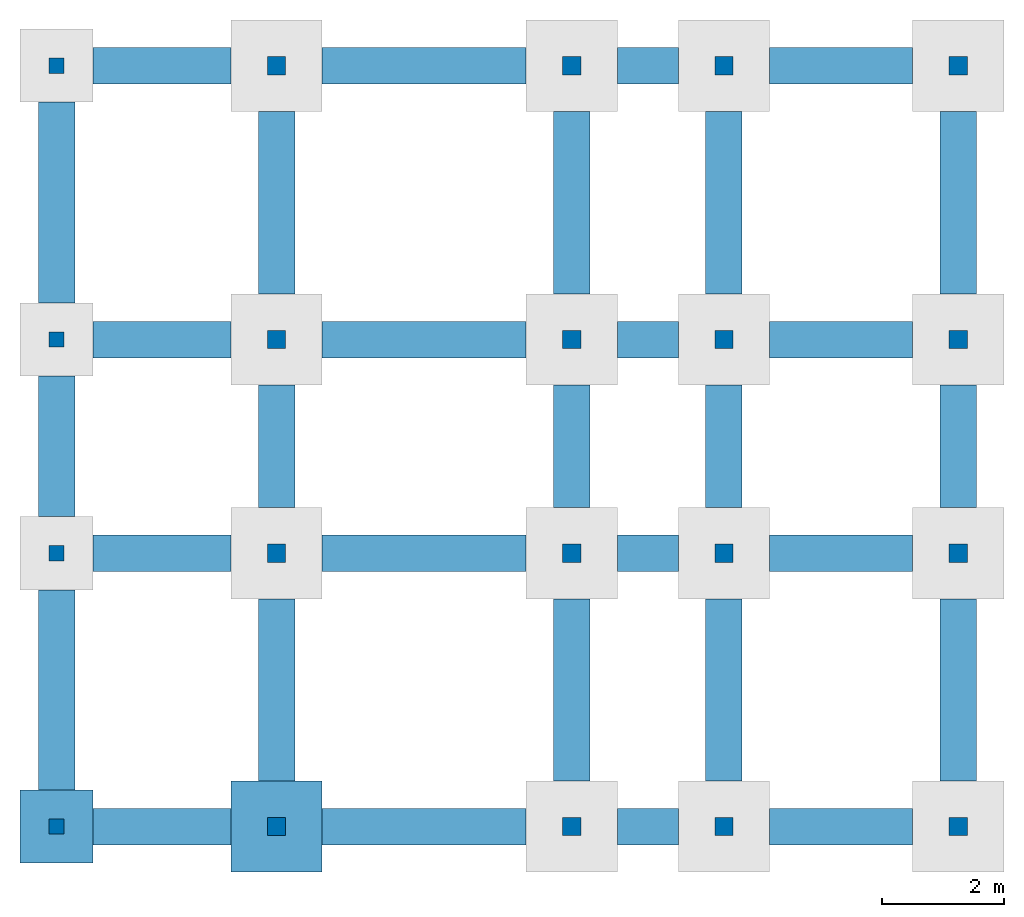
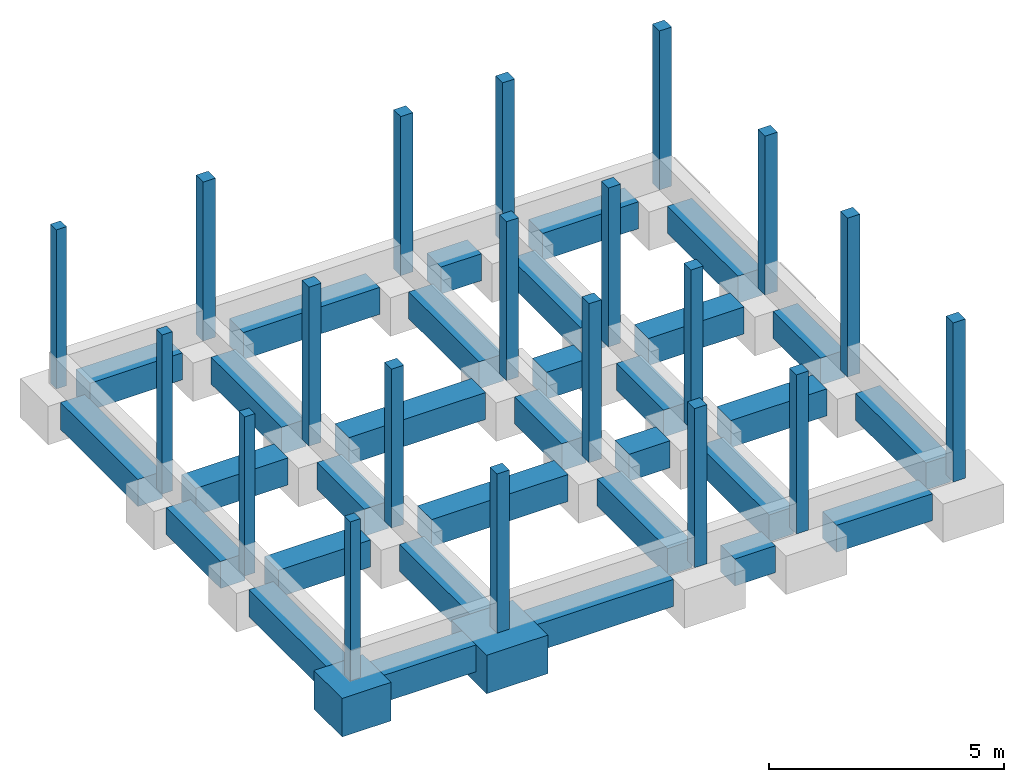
# One storey, part 1 of 2: 31 beams, 20 columns, 2 slabs.
"""IFC2X3 building model written with IfcOpenShell, lengths in metres."""

from ifc_helpers import new_model, entity, si_unit, converted_unit, derived_unit, direction, frame, frame_2d, origin, origin_2d_with_axis, place, context, subcontext, project, spatial, rectangle, extrude, source, transform, mapped, material, type_object, type_shapes, element, save


model = new_model("IFC2X3")

# Units and contexts
model_context = context("Model", 3, precision=1e-05, world=origin(), true_north=direction((6.12303176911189e-17, 1.0)))
context_of_model = context(None, 3, precision=1e-05, world=origin(), true_north=direction((6.12303176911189e-17, 1.0)))
body_context = subcontext(model_context, "Body", "Model", "MODEL_VIEW")
ifc_project = project(units=[si_unit("LENGTHUNIT", "METRE"), si_unit("AREAUNIT", "SQUARE_METRE"), si_unit("VOLUMEUNIT", "CUBIC_METRE"), converted_unit("PLANEANGLEUNIT", "DEGREE", entity("IfcRatioMeasure", 0.0174532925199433), si_unit("PLANEANGLEUNIT", "RADIAN"), dimensions=[0, 0, 0, 0, 0, 0, 0]), si_unit("MASSUNIT", "GRAM", prefix="KILO"), si_unit("TIMEUNIT", "SECOND"), si_unit("FREQUENCYUNIT", "HERTZ"), si_unit("THERMODYNAMICTEMPERATUREUNIT", "DEGREE_CELSIUS"), derived_unit("THERMALTRANSMITTANCEUNIT", [(si_unit("MASSUNIT", "GRAM", prefix="KILO"), 1), (si_unit("THERMODYNAMICTEMPERATUREUNIT", "KELVIN"), -1), (si_unit("TIMEUNIT", "SECOND"), -3)]), derived_unit("VOLUMETRICFLOWRATEUNIT", [(si_unit("LENGTHUNIT", "METRE"), 3), (si_unit("TIMEUNIT", "SECOND"), -1)]), si_unit("ELECTRICCURRENTUNIT", "AMPERE"), si_unit("ELECTRICVOLTAGEUNIT", "VOLT"), si_unit("POWERUNIT", "WATT"), si_unit("FORCEUNIT", "NEWTON", prefix="KILO"), si_unit("ILLUMINANCEUNIT", "LUX"), si_unit("LUMINOUSFLUXUNIT", "LUMEN"), si_unit("LUMINOUSINTENSITYUNIT", "CANDELA"), si_unit("PRESSUREUNIT", "PASCAL")], contexts=[model_context, context_of_model])

# Site, building, storey
site_placement = place(None, origin())
site = spatial("IfcSite", under=ifc_project, at=site_placement, Name="Default", CompositionType="ELEMENT")
building_placement = place(site_placement, origin())
building = spatial("IfcBuilding", under=site, at=building_placement, CompositionType="ELEMENT")
storey_placement = place(building_placement, frame((0.0, 0.0, -0.68)))
storey = spatial("IfcBuildingStorey", under=building, at=storey_placement, Name="00.ES.CIMENTACIÓN", CompositionType="ELEMENT", Elevation=-0.68)

# Columns
column_type_1 = type_object("IfcColumnType", Name="250 x 250 mm", PredefinedType="COLUMN")
shared_shape_1 = source(origin(), body_context, "Body", "SweptSolid", [
    extrude(rectangle(XDim=0.25, YDim=0.250000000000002, at=frame_2d((-6.93889390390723e-17, 0.0), x_axis=(1.0, 0.0))), frame((0.600000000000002, 13.1, -0.68), z_axis=(0.0, 0.0, 1.0), x_axis=(-1.0, 0.0, 0.0)), (0.0, 0.0, 1.0), 4.13),
])
type_shapes(column_type_1, [shared_shape_1])
column_1_placement = place(storey_placement, frame((0.0, 0.0, 0.68)))
element("IfcColumn", 1, at=column_1_placement, inside=storey, type_object=column_type_1, Name="Pilar rectangular hormigón:250 x 250 mm", ObjectType="250 x 250 mm", context=body_context, shape_type="MappedRepresentation", body=[
    mapped(shared_shape_1, transform((0.0, 0.0, 0.0), scale=1.0)),
])
column_type_2 = type_object("IfcColumnType", Name="250 x 250 mm", PredefinedType="COLUMN")
shared_shape_2 = source(origin(), body_context, "Body", "SweptSolid", [
    extrude(rectangle(XDim=0.25, YDim=0.249999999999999, at=origin_2d_with_axis()), frame((0.600000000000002, 8.60000000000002, -0.68), z_axis=(0.0, 0.0, 1.0), x_axis=(-1.0, 0.0, 0.0)), (0.0, 0.0, 1.0), 4.13),
])
type_shapes(column_type_2, [shared_shape_2])
column_2_placement = place(storey_placement, frame((0.0, 0.0, 0.68)))
element("IfcColumn", 2, at=column_2_placement, inside=storey, type_object=column_type_2, Name="Pilar rectangular hormigón:250 x 250 mm", ObjectType="250 x 250 mm", context=body_context, shape_type="MappedRepresentation", body=[
    mapped(shared_shape_2, transform((0.0, 0.0, 0.0), scale=1.0)),
])
column_type_3 = type_object("IfcColumnType", Name="250 x 250 mm", PredefinedType="COLUMN")
shared_shape_3 = source(origin(), body_context, "Body", "SweptSolid", [
    extrude(rectangle(XDim=0.25, YDim=0.249999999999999, at=origin_2d_with_axis()), frame((0.600000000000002, 5.09006108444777, -0.68), z_axis=(0.0, 0.0, 1.0), x_axis=(-1.0, 0.0, 0.0)), (0.0, 0.0, 1.0), 4.13),
])
type_shapes(column_type_3, [shared_shape_3])
column_3_placement = place(storey_placement, frame((0.0, 0.0, 0.68)))
element("IfcColumn", 3, at=column_3_placement, inside=storey, type_object=column_type_3, Name="Pilar rectangular hormigón:250 x 250 mm", ObjectType="250 x 250 mm", context=body_context, shape_type="MappedRepresentation", body=[
    mapped(shared_shape_3, transform((0.0, 0.0, 0.0), scale=1.0)),
])
column_type_4 = type_object("IfcColumnType", Name="250 x 250 mm", PredefinedType="COLUMN")
shared_shape_4 = source(origin(), body_context, "Body", "SweptSolid", [
    extrude(rectangle(XDim=0.25, YDim=0.25, at=frame_2d((0.0, 6.24500451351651e-17), x_axis=(1.0, 0.0))), frame((0.600000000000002, 0.600000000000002, -0.68), z_axis=(0.0, 0.0, 1.0), x_axis=(-1.0, 0.0, 0.0)), (0.0, 0.0, 1.0), 4.13),
])
type_shapes(column_type_4, [shared_shape_4])
column_4_placement = place(storey_placement, frame((0.0, 0.0, 0.68)))
element("IfcColumn", 4, at=column_4_placement, inside=storey, type_object=column_type_4, Name="Pilar rectangular hormigón:250 x 250 mm", ObjectType="250 x 250 mm", context=body_context, shape_type="MappedRepresentation", body=[
    mapped(shared_shape_4, transform((0.0, 0.0, 0.0), scale=1.0)),
])
column_type_5 = type_object("IfcColumnType", Name="300 x 300 mm", PredefinedType="COLUMN")
shared_shape_5 = source(origin(), body_context, "Body", "SweptSolid", [
    extrude(rectangle(XDim=0.3, YDim=0.300000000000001, at=frame_2d((0.0, -1.08246744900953e-15), x_axis=(1.0, 0.0))), frame((4.21500000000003, 13.1, -0.68), z_axis=(0.0, 0.0, 1.0), x_axis=(-1.0, 0.0, 0.0)), (0.0, 0.0, 1.0), 4.13),
])
type_shapes(column_type_5, [shared_shape_5])
column_5_placement = place(storey_placement, frame((0.0, 0.0, 0.68)))
element("IfcColumn", 5, at=column_5_placement, inside=storey, type_object=column_type_5, Name="Pilar rectangular hormigón:300 x 300 mm", ObjectType="300 x 300 mm", context=body_context, shape_type="MappedRepresentation", body=[
    mapped(shared_shape_5, transform((0.0, 0.0, 0.0), scale=1.0)),
])
column_type_6 = type_object("IfcColumnType", Name="300 x 300 mm", PredefinedType="COLUMN")
shared_shape_6 = source(origin(), body_context, "Body", "SweptSolid", [
    extrude(rectangle(XDim=0.3, YDim=0.300000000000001, at=frame_2d((1.08246744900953e-15, -1.08246744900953e-15), x_axis=(1.0, 0.0))), frame((9.065, 13.1, -0.68), z_axis=(0.0, 0.0, 1.0), x_axis=(-1.0, 0.0, 0.0)), (0.0, 0.0, 1.0), 4.13),
])
type_shapes(column_type_6, [shared_shape_6])
column_6_placement = place(storey_placement, frame((0.0, 0.0, 0.68)))
element("IfcColumn", 6, at=column_6_placement, inside=storey, type_object=column_type_6, Name="Pilar rectangular hormigón:300 x 300 mm", ObjectType="300 x 300 mm", context=body_context, shape_type="MappedRepresentation", body=[
    mapped(shared_shape_6, transform((0.0, 0.0, 0.0), scale=1.0)),
])
column_type_7 = type_object("IfcColumnType", Name="300 x 300 mm", PredefinedType="COLUMN")
shared_shape_7 = source(origin(), body_context, "Body", "SweptSolid", [
    extrude(rectangle(XDim=0.299999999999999, YDim=0.300000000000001, at=frame_2d((1.08246744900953e-15, -1.08246744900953e-15), x_axis=(1.0, 0.0))), frame((11.565, 13.1, -0.68), z_axis=(0.0, 0.0, 1.0), x_axis=(-1.0, 0.0, 0.0)), (0.0, 0.0, 1.0), 4.13),
])
type_shapes(column_type_7, [shared_shape_7])
column_7_placement = place(storey_placement, frame((0.0, 0.0, 0.68)))
element("IfcColumn", 7, at=column_7_placement, inside=storey, type_object=column_type_7, Name="Pilar rectangular hormigón:300 x 300 mm", ObjectType="300 x 300 mm", context=body_context, shape_type="MappedRepresentation", body=[
    mapped(shared_shape_7, transform((0.0, 0.0, 0.0), scale=1.0)),
])
column_type_8 = type_object("IfcColumnType", Name="300 x 300 mm", PredefinedType="COLUMN")
shared_shape_8 = source(origin(), body_context, "Body", "SweptSolid", [
    extrude(rectangle(XDim=0.299999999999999, YDim=0.300000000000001, at=frame_2d((1.08246744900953e-15, 1.08246744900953e-15), x_axis=(1.0, 0.0))), frame((15.415, 13.1, -0.68), z_axis=(0.0, 0.0, 1.0), x_axis=(-1.0, 0.0, 0.0)), (0.0, 0.0, 1.0), 4.13),
])
type_shapes(column_type_8, [shared_shape_8])
column_8_placement = place(storey_placement, frame((0.0, 0.0, 0.68)))
element("IfcColumn", 8, at=column_8_placement, inside=storey, type_object=column_type_8, Name="Pilar rectangular hormigón:300 x 300 mm", ObjectType="300 x 300 mm", context=body_context, shape_type="MappedRepresentation", body=[
    mapped(shared_shape_8, transform((0.0, 0.0, 0.0), scale=1.0)),
])
column_type_9 = type_object("IfcColumnType", Name="300 x 300 mm", PredefinedType="COLUMN")
shared_shape_9 = source(origin(), body_context, "Body", "SweptSolid", [
    extrude(rectangle(XDim=0.3, YDim=0.3, at=frame_2d((0.0, 5.41233724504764e-16), x_axis=(1.0, 0.0))), frame((4.21500000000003, 8.60000000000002, -0.68), z_axis=(0.0, 0.0, 1.0), x_axis=(-1.0, 0.0, 0.0)), (0.0, 0.0, 1.0), 4.13),
])
type_shapes(column_type_9, [shared_shape_9])
column_9_placement = place(storey_placement, frame((0.0, 0.0, 0.68)))
element("IfcColumn", 9, at=column_9_placement, inside=storey, type_object=column_type_9, Name="Pilar rectangular hormigón:300 x 300 mm", ObjectType="300 x 300 mm", context=body_context, shape_type="MappedRepresentation", body=[
    mapped(shared_shape_9, transform((0.0, 0.0, 0.0), scale=1.0)),
])
column_type_10 = type_object("IfcColumnType", Name="300 x 300 mm", PredefinedType="COLUMN")
shared_shape_10 = source(origin(), body_context, "Body", "SweptSolid", [
    extrude(rectangle(XDim=0.3, YDim=0.3, at=frame_2d((5.41233724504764e-16, 5.41233724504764e-16), x_axis=(1.0, 0.0))), frame((9.065, 8.60000000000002, -0.68), z_axis=(0.0, 0.0, 1.0), x_axis=(-1.0, 0.0, 0.0)), (0.0, 0.0, 1.0), 4.13),
])
type_shapes(column_type_10, [shared_shape_10])
column_10_placement = place(storey_placement, frame((0.0, 0.0, 0.68)))
element("IfcColumn", 10, at=column_10_placement, inside=storey, type_object=column_type_10, Name="Pilar rectangular hormigón:300 x 300 mm", ObjectType="300 x 300 mm", context=body_context, shape_type="MappedRepresentation", body=[
    mapped(shared_shape_10, transform((0.0, 0.0, 0.0), scale=1.0)),
])
column_type_11 = type_object("IfcColumnType", Name="300 x 300 mm", PredefinedType="COLUMN")
shared_shape_11 = source(origin(), body_context, "Body", "SweptSolid", [
    extrude(rectangle(XDim=0.299999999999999, YDim=0.3, at=frame_2d((1.08246744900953e-15, 5.41233724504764e-16), x_axis=(1.0, 0.0))), frame((11.565, 8.60000000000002, -0.68), z_axis=(0.0, 0.0, 1.0), x_axis=(-1.0, 0.0, 0.0)), (0.0, 0.0, 1.0), 4.13),
])
type_shapes(column_type_11, [shared_shape_11])
column_11_placement = place(storey_placement, frame((0.0, 0.0, 0.68)))
element("IfcColumn", 11, at=column_11_placement, inside=storey, type_object=column_type_11, Name="Pilar rectangular hormigón:300 x 300 mm", ObjectType="300 x 300 mm", context=body_context, shape_type="MappedRepresentation", body=[
    mapped(shared_shape_11, transform((0.0, 0.0, 0.0), scale=1.0)),
])
column_type_12 = type_object("IfcColumnType", Name="300 x 300 mm", PredefinedType="COLUMN")
shared_shape_12 = source(origin(), body_context, "Body", "SweptSolid", [
    extrude(rectangle(XDim=0.299999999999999, YDim=0.3, at=frame_2d((1.08246744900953e-15, 5.41233724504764e-16), x_axis=(1.0, 0.0))), frame((15.415, 8.60000000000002, -0.68), z_axis=(0.0, 0.0, 1.0), x_axis=(-1.0, 0.0, 0.0)), (0.0, 0.0, 1.0), 4.13),
])
type_shapes(column_type_12, [shared_shape_12])
column_12_placement = place(storey_placement, frame((0.0, 0.0, 0.68)))
element("IfcColumn", 12, at=column_12_placement, inside=storey, type_object=column_type_12, Name="Pilar rectangular hormigón:300 x 300 mm", ObjectType="300 x 300 mm", context=body_context, shape_type="MappedRepresentation", body=[
    mapped(shared_shape_12, transform((0.0, 0.0, 0.0), scale=1.0)),
])
column_type_13 = type_object("IfcColumnType", Name="300 x 300 mm", PredefinedType="COLUMN")
shared_shape_13 = source(origin(), body_context, "Body", "SweptSolid", [
    extrude(rectangle(XDim=0.3, YDim=0.3, at=frame_2d((0.0, 5.41233724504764e-16), x_axis=(1.0, 0.0))), frame((4.21500000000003, 5.09006108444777, -0.68), z_axis=(0.0, 0.0, 1.0), x_axis=(-1.0, 0.0, 0.0)), (0.0, 0.0, 1.0), 4.13),
])
type_shapes(column_type_13, [shared_shape_13])
column_13_placement = place(storey_placement, frame((0.0, 0.0, 0.68)))
element("IfcColumn", 13, at=column_13_placement, inside=storey, type_object=column_type_13, Name="Pilar rectangular hormigón:300 x 300 mm", ObjectType="300 x 300 mm", context=body_context, shape_type="MappedRepresentation", body=[
    mapped(shared_shape_13, transform((0.0, 0.0, 0.0), scale=1.0)),
])
column_type_14 = type_object("IfcColumnType", Name="300 x 300 mm", PredefinedType="COLUMN")
shared_shape_14 = source(origin(), body_context, "Body", "SweptSolid", [
    extrude(rectangle(XDim=0.3, YDim=0.3, at=frame_2d((5.41233724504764e-16, 5.41233724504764e-16), x_axis=(1.0, 0.0))), frame((9.065, 5.09006108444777, -0.68), z_axis=(0.0, 0.0, 1.0), x_axis=(-1.0, 0.0, 0.0)), (0.0, 0.0, 1.0), 4.13),
])
type_shapes(column_type_14, [shared_shape_14])
column_14_placement = place(storey_placement, frame((0.0, 0.0, 0.68)))
element("IfcColumn", 14, at=column_14_placement, inside=storey, type_object=column_type_14, Name="Pilar rectangular hormigón:300 x 300 mm", ObjectType="300 x 300 mm", context=body_context, shape_type="MappedRepresentation", body=[
    mapped(shared_shape_14, transform((0.0, 0.0, 0.0), scale=1.0)),
])
column_type_15 = type_object("IfcColumnType", Name="300 x 300 mm", PredefinedType="COLUMN")
shared_shape_15 = source(origin(), body_context, "Body", "SweptSolid", [
    extrude(rectangle(XDim=0.299999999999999, YDim=0.3, at=frame_2d((1.08246744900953e-15, 5.41233724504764e-16), x_axis=(1.0, 0.0))), frame((11.565, 5.09006108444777, -0.68), z_axis=(0.0, 0.0, 1.0), x_axis=(-1.0, 0.0, 0.0)), (0.0, 0.0, 1.0), 4.13),
])
type_shapes(column_type_15, [shared_shape_15])
column_15_placement = place(storey_placement, frame((0.0, 0.0, 0.68)))
element("IfcColumn", 15, at=column_15_placement, inside=storey, type_object=column_type_15, Name="Pilar rectangular hormigón:300 x 300 mm", ObjectType="300 x 300 mm", context=body_context, shape_type="MappedRepresentation", body=[
    mapped(shared_shape_15, transform((0.0, 0.0, 0.0), scale=1.0)),
])
column_type_16 = type_object("IfcColumnType", Name="300 x 300 mm", PredefinedType="COLUMN")
shared_shape_16 = source(origin(), body_context, "Body", "SweptSolid", [
    extrude(rectangle(XDim=0.299999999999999, YDim=0.3, at=frame_2d((1.08246744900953e-15, 5.41233724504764e-16), x_axis=(1.0, 0.0))), frame((15.415, 5.09006108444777, -0.68), z_axis=(0.0, 0.0, 1.0), x_axis=(-1.0, 0.0, 0.0)), (0.0, 0.0, 1.0), 4.13),
])
type_shapes(column_type_16, [shared_shape_16])
column_16_placement = place(storey_placement, frame((0.0, 0.0, 0.68)))
element("IfcColumn", 16, at=column_16_placement, inside=storey, type_object=column_type_16, Name="Pilar rectangular hormigón:300 x 300 mm", ObjectType="300 x 300 mm", context=body_context, shape_type="MappedRepresentation", body=[
    mapped(shared_shape_16, transform((0.0, 0.0, 0.0), scale=1.0)),
])
column_type_17 = type_object("IfcColumnType", Name="300 x 300 mm", PredefinedType="COLUMN")
shared_shape_17 = source(origin(), body_context, "Body", "SweptSolid", [
    extrude(rectangle(XDim=0.3, YDim=0.3, at=frame_2d((0.0, -6.93889390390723e-17), x_axis=(1.0, 0.0))), frame((4.21500000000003, 0.600000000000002, -0.68), z_axis=(0.0, 0.0, 1.0), x_axis=(-1.0, 0.0, 0.0)), (0.0, 0.0, 1.0), 4.13),
])
type_shapes(column_type_17, [shared_shape_17])
column_17_placement = place(storey_placement, frame((0.0, 0.0, 0.68)))
element("IfcColumn", 17, at=column_17_placement, inside=storey, type_object=column_type_17, Name="Pilar rectangular hormigón:300 x 300 mm", ObjectType="300 x 300 mm", context=body_context, shape_type="MappedRepresentation", body=[
    mapped(shared_shape_17, transform((0.0, 0.0, 0.0), scale=1.0)),
])
column_type_18 = type_object("IfcColumnType", Name="300 x 300 mm", PredefinedType="COLUMN")
shared_shape_18 = source(origin(), body_context, "Body", "SweptSolid", [
    extrude(rectangle(XDim=0.3, YDim=0.3, at=frame_2d((5.41233724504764e-16, -6.93889390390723e-17), x_axis=(1.0, 0.0))), frame((9.065, 0.600000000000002, -0.68), z_axis=(0.0, 0.0, 1.0), x_axis=(-1.0, 0.0, 0.0)), (0.0, 0.0, 1.0), 4.13),
])
type_shapes(column_type_18, [shared_shape_18])
column_18_placement = place(storey_placement, frame((0.0, 0.0, 0.68)))
element("IfcColumn", 18, at=column_18_placement, inside=storey, type_object=column_type_18, Name="Pilar rectangular hormigón:300 x 300 mm", ObjectType="300 x 300 mm", context=body_context, shape_type="MappedRepresentation", body=[
    mapped(shared_shape_18, transform((0.0, 0.0, 0.0), scale=1.0)),
])
column_type_19 = type_object("IfcColumnType", Name="300 x 300 mm", PredefinedType="COLUMN")
shared_shape_19 = source(origin(), body_context, "Body", "SweptSolid", [
    extrude(rectangle(XDim=0.299999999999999, YDim=0.3, at=frame_2d((1.08246744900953e-15, -6.93889390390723e-17), x_axis=(1.0, 0.0))), frame((11.565, 0.600000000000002, -0.68), z_axis=(0.0, 0.0, 1.0), x_axis=(-1.0, 0.0, 0.0)), (0.0, 0.0, 1.0), 4.13),
])
type_shapes(column_type_19, [shared_shape_19])
column_19_placement = place(storey_placement, frame((0.0, 0.0, 0.68)))
element("IfcColumn", 19, at=column_19_placement, inside=storey, type_object=column_type_19, Name="Pilar rectangular hormigón:300 x 300 mm", ObjectType="300 x 300 mm", context=body_context, shape_type="MappedRepresentation", body=[
    mapped(shared_shape_19, transform((0.0, 0.0, 0.0), scale=1.0)),
])
column_type_20 = type_object("IfcColumnType", Name="300 x 300 mm", PredefinedType="COLUMN")
shared_shape_20 = source(origin(), body_context, "Body", "SweptSolid", [
    extrude(rectangle(XDim=0.299999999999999, YDim=0.3, at=frame_2d((1.08246744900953e-15, -6.93889390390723e-17), x_axis=(1.0, 0.0))), frame((15.415, 0.600000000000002, -0.68), z_axis=(0.0, 0.0, 1.0), x_axis=(-1.0, 0.0, 0.0)), (0.0, 0.0, 1.0), 4.13),
])
type_shapes(column_type_20, [shared_shape_20])
column_20_placement = place(storey_placement, frame((0.0, 0.0, 0.68)))
element("IfcColumn", 20, at=column_20_placement, inside=storey, type_object=column_type_20, Name="Pilar rectangular hormigón:300 x 300 mm", ObjectType="300 x 300 mm", context=body_context, shape_type="MappedRepresentation", body=[
    mapped(shared_shape_20, transform((0.0, 0.0, 0.0), scale=1.0)),
])

# Beams
ifc_material = material(Name="Hormigón - Hormigón moldeado in situ")
beam_1_placement = place(storey_placement, frame((14.665, 0.599999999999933, 0.0), z_axis=(0.0, 0.0, 1.0), x_axis=(-1.0, 0.0, 0.0)))
element("IfcBeam", 21, at=beam_1_placement, inside=storey, material=ifc_material, Name="Hormigón-Viga rectangular:600 x 700 mm", ObjectType="Hormigón-Viga rectangular:600 x 700 mm", context=body_context, shape_type="SweptSolid", body=[
    extrude(rectangle(XDim=0.7, YDim=0.600000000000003, at=frame_2d((0.0, 7.54951656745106e-15), x_axis=(1.0, 0.0))), frame((0.0, 0.0, -0.350000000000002), z_axis=(1.0, 0.0, 0.0), x_axis=(0.0, 0.0, -1.0)), (0.0, 0.0, 1.0), 2.35000000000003),
])
beam_2_placement = place(storey_placement, frame((10.815, 0.599999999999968, 0.0), z_axis=(0.0, 0.0, 1.0), x_axis=(-1.0, 0.0, 0.0)))
element("IfcBeam", 22, at=beam_2_placement, inside=storey, material=ifc_material, Name="Hormigón-Viga rectangular:600 x 700 mm", ObjectType="Hormigón-Viga rectangular:600 x 700 mm", context=body_context, shape_type="SweptSolid", body=[
    extrude(rectangle(XDim=0.7, YDim=0.600000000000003, at=frame_2d((0.0, 3.19189119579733e-15), x_axis=(1.0, 0.0))), frame((0.0, 0.0, -0.350000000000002), z_axis=(1.0, 0.0, 0.0), x_axis=(0.0, 0.0, -1.0)), (0.0, 0.0, 1.0), 0.999999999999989),
])
beam_3_placement = place(storey_placement, frame((8.315, 0.599999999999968, 0.0), z_axis=(0.0, 0.0, 1.0), x_axis=(-1.0, 0.0, 0.0)))
element("IfcBeam", 23, at=beam_3_placement, inside=storey, material=ifc_material, Name="Hormigón-Viga rectangular:600 x 700 mm", ObjectType="Hormigón-Viga rectangular:600 x 700 mm", context=body_context, shape_type="SweptSolid", body=[
    extrude(rectangle(XDim=0.7, YDim=0.600000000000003, at=frame_2d((0.0, 1.0769163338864e-14), x_axis=(1.0, 0.0))), frame((0.0, 0.0, -0.350000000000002), z_axis=(1.0, 0.0, 0.0), x_axis=(0.0, 0.0, -1.0)), (0.0, 0.0, 1.0), 3.34999999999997),
])
beam_4_placement = place(storey_placement, frame((3.46500000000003, 0.599999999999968, 0.0), z_axis=(0.0, 0.0, 1.0), x_axis=(-1.0, 0.0, 0.0)))
element("IfcBeam", 24, at=beam_4_placement, inside=storey, material=ifc_material, Name="Hormigón-Viga rectangular:600 x 700 mm", ObjectType="Hormigón-Viga rectangular:600 x 700 mm", context=body_context, shape_type="SweptSolid", body=[
    extrude(rectangle(XDim=0.7, YDim=0.600000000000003, at=frame_2d((0.0, 7.24420523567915e-15), x_axis=(1.0, 0.0))), frame((0.0, 0.0, -0.350000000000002), z_axis=(1.0, 0.0, 0.0), x_axis=(0.0, 0.0, -1.0)), (0.0, 0.0, 1.0), 2.26500000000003),
])
beam_5_placement = place(storey_placement, frame((0.600000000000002, 1.20000000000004, 0.0), z_axis=(0.0, 0.0, 1.0), x_axis=(0.0, 1.0, 0.0)))
element("IfcBeam", 25, at=beam_5_placement, inside=storey, material=ifc_material, Name="Hormigón-Viga rectangular:600 x 700 mm", ObjectType="Hormigón-Viga rectangular:600 x 700 mm", context=body_context, shape_type="SweptSolid", body=[
    extrude(rectangle(XDim=0.7, YDim=0.600000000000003, at=frame_2d((0.0, -2.77555756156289e-17), x_axis=(1.0, 0.0))), frame((0.0, 0.0, -0.350000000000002), z_axis=(1.0, 0.0, 0.0), x_axis=(0.0, 0.0, -1.0)), (0.0, 0.0, 1.0), 3.29006108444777),
])
beam_6_placement = place(storey_placement, frame((0.600000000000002, 5.69006108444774, 0.0), z_axis=(0.0, 0.0, 1.0), x_axis=(0.0, 1.0, 0.0)))
element("IfcBeam", 26, at=beam_6_placement, inside=storey, material=ifc_material, Name="Hormigón-Viga rectangular:600 x 700 mm", ObjectType="Hormigón-Viga rectangular:600 x 700 mm", context=body_context, shape_type="SweptSolid", body=[
    extrude(rectangle(XDim=0.7, YDim=0.600000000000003, at=frame_2d((0.0, -5.55111512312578e-17), x_axis=(1.0, 0.0))), frame((0.0, 0.0, -0.350000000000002), z_axis=(1.0, 0.0, 0.0), x_axis=(0.0, 0.0, -1.0)), (0.0, 0.0, 1.0), 2.30993891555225),
])
beam_7_placement = place(storey_placement, frame((0.600000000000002, 9.19999999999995, 0.0), z_axis=(0.0, 0.0, 1.0), x_axis=(0.0, 1.0, 0.0)))
element("IfcBeam", 27, at=beam_7_placement, inside=storey, material=ifc_material, Name="Hormigón-Viga rectangular:600 x 700 mm", ObjectType="Hormigón-Viga rectangular:600 x 700 mm", context=body_context, shape_type="SweptSolid", body=[
    extrude(rectangle(XDim=0.7, YDim=0.600000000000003, at=origin_2d_with_axis()), frame((0.0, 0.0, -0.350000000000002), z_axis=(1.0, 0.0, 0.0), x_axis=(0.0, 0.0, -1.0)), (0.0, 0.0, 1.0), 3.29999999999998),
])
beam_8_placement = place(storey_placement, frame((14.665, 5.09006108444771, 0.0), z_axis=(0.0, 0.0, 1.0), x_axis=(-1.0, 0.0, 0.0)))
element("IfcBeam", 28, at=beam_8_placement, inside=storey, material=ifc_material, Name="Hormigón-Viga rectangular:600 x 700 mm", ObjectType="Hormigón-Viga rectangular:600 x 700 mm", context=body_context, shape_type="SweptSolid", body=[
    extrude(rectangle(XDim=0.7, YDim=0.600000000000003, at=frame_2d((0.0, 7.02216063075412e-15), x_axis=(1.0, 0.0))), frame((0.0, 0.0, -0.350000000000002), z_axis=(1.0, 0.0, 0.0), x_axis=(0.0, 0.0, -1.0)), (0.0, 0.0, 1.0), 2.35000000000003),
])
beam_9_placement = place(storey_placement, frame((10.815, 5.09006108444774, 0.0), z_axis=(0.0, 0.0, 1.0), x_axis=(-1.0, 0.0, 0.0)))
element("IfcBeam", 29, at=beam_9_placement, inside=storey, material=ifc_material, Name="Hormigón-Viga rectangular:600 x 700 mm", ObjectType="Hormigón-Viga rectangular:600 x 700 mm", context=body_context, shape_type="SweptSolid", body=[
    extrude(rectangle(XDim=0.7, YDim=0.600000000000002, at=frame_2d((0.0, 3.52495810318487e-15), x_axis=(1.0, 0.0))), frame((0.0, 0.0, -0.350000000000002), z_axis=(1.0, 0.0, 0.0), x_axis=(0.0, 0.0, -1.0)), (0.0, 0.0, 1.0), 0.999999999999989),
])
beam_10_placement = place(storey_placement, frame((8.31500000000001, 5.09006108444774, 0.0), z_axis=(0.0, 0.0, 1.0), x_axis=(-1.0, 0.0, 0.0)))
element("IfcBeam", 30, at=beam_10_placement, inside=storey, material=ifc_material, Name="Hormigón-Viga rectangular:600 x 700 mm", ObjectType="Hormigón-Viga rectangular:600 x 700 mm", context=body_context, shape_type="SweptSolid", body=[
    extrude(rectangle(XDim=0.7, YDim=0.600000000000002, at=frame_2d((0.0, 1.10744746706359e-14), x_axis=(1.0, 0.0))), frame((0.0, 0.0, -0.350000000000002), z_axis=(1.0, 0.0, 0.0), x_axis=(0.0, 0.0, -1.0)), (0.0, 0.0, 1.0), 3.34999999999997),
])
beam_11_placement = place(storey_placement, frame((3.46500000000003, 5.09006108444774, 0.0), z_axis=(0.0, 0.0, 1.0), x_axis=(-1.0, 0.0, 0.0)))
element("IfcBeam", 31, at=beam_11_placement, inside=storey, material=ifc_material, Name="Hormigón-Viga rectangular:600 x 700 mm", ObjectType="Hormigón-Viga rectangular:600 x 700 mm", context=body_context, shape_type="SweptSolid", body=[
    extrude(rectangle(XDim=0.7, YDim=0.600000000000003, at=frame_2d((0.0, 7.02216063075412e-15), x_axis=(1.0, 0.0))), frame((0.0, 0.0, -0.350000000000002), z_axis=(1.0, 0.0, 0.0), x_axis=(0.0, 0.0, -1.0)), (0.0, 0.0, 1.0), 2.26500000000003),
])
beam_12_placement = place(storey_placement, frame((14.665, 8.59999999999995, 0.0), z_axis=(0.0, 0.0, 1.0), x_axis=(-1.0, 0.0, 0.0)))
element("IfcBeam", 32, at=beam_12_placement, inside=storey, material=ifc_material, Name="Hormigón-Viga rectangular:600 x 700 mm", ObjectType="Hormigón-Viga rectangular:600 x 700 mm", context=body_context, shape_type="SweptSolid", body=[
    extrude(rectangle(XDim=0.7, YDim=0.600000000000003, at=frame_2d((0.0, 7.02216063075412e-15), x_axis=(1.0, 0.0))), frame((0.0, 0.0, -0.350000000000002), z_axis=(1.0, 0.0, 0.0), x_axis=(0.0, 0.0, -1.0)), (0.0, 0.0, 1.0), 2.35000000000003),
])
beam_13_placement = place(storey_placement, frame((10.815, 8.59999999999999, 0.0), z_axis=(0.0, 0.0, 1.0), x_axis=(-1.0, 0.0, 0.0)))
element("IfcBeam", 33, at=beam_13_placement, inside=storey, material=ifc_material, Name="Hormigón-Viga rectangular:600 x 700 mm", ObjectType="Hormigón-Viga rectangular:600 x 700 mm", context=body_context, shape_type="SweptSolid", body=[
    extrude(rectangle(XDim=0.7, YDim=0.600000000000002, at=frame_2d((0.0, 3.24740234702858e-15), x_axis=(1.0, 0.0))), frame((0.0, 0.0, -0.350000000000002), z_axis=(1.0, 0.0, 0.0), x_axis=(0.0, 0.0, -1.0)), (0.0, 0.0, 1.0), 0.999999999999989),
])
beam_14_placement = place(storey_placement, frame((8.31500000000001, 8.59999999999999, 0.0), z_axis=(0.0, 0.0, 1.0), x_axis=(-1.0, 0.0, 0.0)))
element("IfcBeam", 34, at=beam_14_placement, inside=storey, material=ifc_material, Name="Hormigón-Viga rectangular:600 x 700 mm", ObjectType="Hormigón-Viga rectangular:600 x 700 mm", context=body_context, shape_type="SweptSolid", body=[
    extrude(rectangle(XDim=0.7, YDim=0.600000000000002, at=frame_2d((-1.38777878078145e-16, 1.08246744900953e-14), x_axis=(1.0, 0.0))), frame((0.0, 0.0, -0.350000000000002), z_axis=(1.0, 0.0, 0.0), x_axis=(0.0, 0.0, -1.0)), (0.0, 0.0, 1.0), 3.34999999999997),
])
beam_15_placement = place(storey_placement, frame((3.46500000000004, 8.59999999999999, 0.0), z_axis=(0.0, 0.0, 1.0), x_axis=(-1.0, 0.0, 0.0)))
element("IfcBeam", 35, at=beam_15_placement, inside=storey, material=ifc_material, Name="Hormigón-Viga rectangular:600 x 700 mm", ObjectType="Hormigón-Viga rectangular:600 x 700 mm", context=body_context, shape_type="SweptSolid", body=[
    extrude(rectangle(XDim=0.7, YDim=0.600000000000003, at=frame_2d((0.0, 7.02216063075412e-15), x_axis=(1.0, 0.0))), frame((0.0, 0.0, -0.350000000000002), z_axis=(1.0, 0.0, 0.0), x_axis=(0.0, 0.0, -1.0)), (0.0, 0.0, 1.0), 2.26500000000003),
])
beam_16_placement = place(storey_placement, frame((14.665, 13.0999999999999, 0.0), z_axis=(0.0, 0.0, 1.0), x_axis=(-1.0, 0.0, 0.0)))
element("IfcBeam", 36, at=beam_16_placement, inside=storey, material=ifc_material, Name="Hormigón-Viga rectangular:600 x 700 mm", ObjectType="Hormigón-Viga rectangular:600 x 700 mm", context=body_context, shape_type="SweptSolid", body=[
    extrude(rectangle(XDim=0.7, YDim=0.600000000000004, at=frame_2d((0.0, 7.57727214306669e-15), x_axis=(1.0, 0.0))), frame((0.0, 0.0, -0.350000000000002), z_axis=(1.0, 0.0, 0.0), x_axis=(0.0, 0.0, -1.0)), (0.0, 0.0, 1.0), 2.35000000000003),
])
beam_17_placement = place(storey_placement, frame((10.815, 13.1, 0.0), z_axis=(0.0, 0.0, 1.0), x_axis=(-1.0, 0.0, 0.0)))
element("IfcBeam", 37, at=beam_17_placement, inside=storey, material=ifc_material, Name="Hormigón-Viga rectangular:600 x 700 mm", ObjectType="Hormigón-Viga rectangular:600 x 700 mm", context=body_context, shape_type="SweptSolid", body=[
    extrude(rectangle(XDim=0.7, YDim=0.600000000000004, at=frame_2d((0.0, 5.41233724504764e-15), x_axis=(1.0, 0.0))), frame((0.0, 0.0, -0.350000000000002), z_axis=(1.0, 0.0, 0.0), x_axis=(0.0, 0.0, -1.0)), (0.0, 0.0, 1.0), 0.999999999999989),
])
beam_18_placement = place(storey_placement, frame((8.31500000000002, 13.1, 0.0), z_axis=(0.0, 0.0, 1.0), x_axis=(-1.0, 0.0, 0.0)))
element("IfcBeam", 38, at=beam_18_placement, inside=storey, material=ifc_material, Name="Hormigón-Viga rectangular:600 x 700 mm", ObjectType="Hormigón-Viga rectangular:600 x 700 mm", context=body_context, shape_type="SweptSolid", body=[
    extrude(rectangle(XDim=0.7, YDim=0.600000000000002, at=frame_2d((0.0, 1.08246744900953e-14), x_axis=(1.0, 0.0))), frame((0.0, 0.0, -0.350000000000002), z_axis=(1.0, 0.0, 0.0), x_axis=(0.0, 0.0, -1.0)), (0.0, 0.0, 1.0), 3.34999999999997),
])
beam_19_placement = place(storey_placement, frame((3.46500000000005, 13.1, 0.0), z_axis=(0.0, 0.0, 1.0), x_axis=(-1.0, 0.0, 0.0)))
element("IfcBeam", 39, at=beam_19_placement, inside=storey, material=ifc_material, Name="Hormigón-Viga rectangular:600 x 700 mm", ObjectType="Hormigón-Viga rectangular:600 x 700 mm", context=body_context, shape_type="SweptSolid", body=[
    extrude(rectangle(XDim=0.7, YDim=0.600000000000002, at=frame_2d((0.0, 7.57727214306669e-15), x_axis=(1.0, 0.0))), frame((0.0, 0.0, -0.350000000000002), z_axis=(1.0, 0.0, 0.0), x_axis=(0.0, 0.0, -1.0)), (0.0, 0.0, 1.0), 2.26500000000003),
])
beam_20_placement = place(storey_placement, frame((4.21500000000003, 1.20000000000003, 0.0), z_axis=(0.0, 0.0, 1.0), x_axis=(0.0, 1.0, 0.0)))
element("IfcBeam", 40, at=beam_20_placement, inside=storey, material=ifc_material, Name="Hormigón-Viga rectangular:600 x 700 mm", ObjectType="Hormigón-Viga rectangular:600 x 700 mm", context=body_context, shape_type="SweptSolid", body=[
    extrude(rectangle(XDim=0.7, YDim=0.600000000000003, at=origin_2d_with_axis()), frame((0.149999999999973, 0.0, -0.350000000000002), z_axis=(1.0, 0.0, 0.0), x_axis=(0.0, 0.0, -1.0)), (0.0, 0.0, 1.0), 2.99006108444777),
])
beam_21_placement = place(storey_placement, frame((4.21500000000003, 5.69006108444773, 0.0), z_axis=(0.0, 0.0, 1.0), x_axis=(0.0, 1.0, 0.0)))
element("IfcBeam", 41, at=beam_21_placement, inside=storey, material=ifc_material, Name="Hormigón-Viga rectangular:600 x 700 mm", ObjectType="Hormigón-Viga rectangular:600 x 700 mm", context=body_context, shape_type="SweptSolid", body=[
    extrude(rectangle(XDim=0.7, YDim=0.600000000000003, at=frame_2d((0.0, 2.77555756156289e-16), x_axis=(1.0, 0.0))), frame((0.150000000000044, 0.0, -0.350000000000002), z_axis=(1.0, 0.0, 0.0), x_axis=(0.0, 0.0, -1.0)), (0.0, 0.0, 1.0), 2.00993891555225),
])
beam_22_placement = place(storey_placement, frame((4.21500000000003, 9.19999999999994, 0.0), z_axis=(0.0, 0.0, 1.0), x_axis=(0.0, 1.0, 0.0)))
element("IfcBeam", 42, at=beam_22_placement, inside=storey, material=ifc_material, Name="Hormigón-Viga rectangular:600 x 700 mm", ObjectType="Hormigón-Viga rectangular:600 x 700 mm", context=body_context, shape_type="SweptSolid", body=[
    extrude(rectangle(XDim=0.7, YDim=0.600000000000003, at=origin_2d_with_axis()), frame((0.150000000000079, 0.0, -0.350000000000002), z_axis=(1.0, 0.0, 0.0), x_axis=(0.0, 0.0, -1.0)), (0.0, 0.0, 1.0), 2.99999999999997),
])
beam_23_placement = place(storey_placement, frame((9.065, 1.20000000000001, 0.0), z_axis=(0.0, 0.0, 1.0), x_axis=(0.0, 1.0, 0.0)))
element("IfcBeam", 43, at=beam_23_placement, inside=storey, material=ifc_material, Name="Hormigón-Viga rectangular:600 x 700 mm", ObjectType="Hormigón-Viga rectangular:600 x 700 mm", context=body_context, shape_type="SweptSolid", body=[
    extrude(rectangle(XDim=0.7, YDim=0.600000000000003, at=frame_2d((0.0, -5.55111512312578e-16), x_axis=(1.0, 0.0))), frame((0.149999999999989, 0.0, -0.350000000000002), z_axis=(1.0, 0.0, 0.0), x_axis=(0.0, 0.0, -1.0)), (0.0, 0.0, 1.0), 2.99006108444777),
])
beam_24_placement = place(storey_placement, frame((9.065, 5.69006108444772, 0.0), z_axis=(0.0, 0.0, 1.0), x_axis=(0.0, 1.0, 0.0)))
element("IfcBeam", 44, at=beam_24_placement, inside=storey, material=ifc_material, Name="Hormigón-Viga rectangular:600 x 700 mm", ObjectType="Hormigón-Viga rectangular:600 x 700 mm", context=body_context, shape_type="SweptSolid", body=[
    extrude(rectangle(XDim=0.7, YDim=0.600000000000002, at=frame_2d((0.0, 1.60982338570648e-15), x_axis=(1.0, 0.0))), frame((0.150000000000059, 0.0, -0.350000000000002), z_axis=(1.0, 0.0, 0.0), x_axis=(0.0, 0.0, -1.0)), (0.0, 0.0, 1.0), 2.00993891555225),
])
beam_25_placement = place(storey_placement, frame((9.065, 9.19999999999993, 0.0), z_axis=(0.0, 0.0, 1.0), x_axis=(0.0, 1.0, 0.0)))
element("IfcBeam", 45, at=beam_25_placement, inside=storey, material=ifc_material, Name="Hormigón-Viga rectangular:600 x 700 mm", ObjectType="Hormigón-Viga rectangular:600 x 700 mm", context=body_context, shape_type="SweptSolid", body=[
    extrude(rectangle(XDim=0.7, YDim=0.600000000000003, at=frame_2d((0.0, -5.55111512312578e-16), x_axis=(1.0, 0.0))), frame((0.150000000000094, 0.0, -0.350000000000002), z_axis=(1.0, 0.0, 0.0), x_axis=(0.0, 0.0, -1.0)), (0.0, 0.0, 1.0), 2.99999999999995),
])
beam_26_placement = place(storey_placement, frame((11.565, 1.2, 0.0), z_axis=(0.0, 0.0, 1.0), x_axis=(0.0, 1.0, 0.0)))
element("IfcBeam", 46, at=beam_26_placement, inside=storey, material=ifc_material, Name="Hormigón-Viga rectangular:600 x 700 mm", ObjectType="Hormigón-Viga rectangular:600 x 700 mm", context=body_context, shape_type="SweptSolid", body=[
    extrude(rectangle(XDim=0.7, YDim=0.600000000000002, at=frame_2d((0.0, 1.08246744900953e-15), x_axis=(1.0, 0.0))), frame((0.149999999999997, 0.0, -0.350000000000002), z_axis=(1.0, 0.0, 0.0), x_axis=(0.0, 0.0, -1.0)), (0.0, 0.0, 1.0), 2.99006108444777),
])
beam_27_placement = place(storey_placement, frame((11.565, 5.69006108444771, 0.0), z_axis=(0.0, 0.0, 1.0), x_axis=(0.0, 1.0, 0.0)))
element("IfcBeam", 47, at=beam_27_placement, inside=storey, material=ifc_material, Name="Hormigón-Viga rectangular:600 x 700 mm", ObjectType="Hormigón-Viga rectangular:600 x 700 mm", context=body_context, shape_type="SweptSolid", body=[
    extrude(rectangle(XDim=0.7, YDim=0.600000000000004, at=frame_2d((0.0, -1.08246744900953e-15), x_axis=(1.0, 0.0))), frame((0.150000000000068, 0.0, -0.350000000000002), z_axis=(1.0, 0.0, 0.0), x_axis=(0.0, 0.0, -1.0)), (0.0, 0.0, 1.0), 2.00993891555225),
])
beam_28_placement = place(storey_placement, frame((11.565, 9.19999999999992, 0.0), z_axis=(0.0, 0.0, 1.0), x_axis=(0.0, 1.0, 0.0)))
element("IfcBeam", 48, at=beam_28_placement, inside=storey, material=ifc_material, Name="Hormigón-Viga rectangular:600 x 700 mm", ObjectType="Hormigón-Viga rectangular:600 x 700 mm", context=body_context, shape_type="SweptSolid", body=[
    extrude(rectangle(XDim=0.7, YDim=0.600000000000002, at=frame_2d((0.0, 1.08246744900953e-15), x_axis=(1.0, 0.0))), frame((0.150000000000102, 0.0, -0.350000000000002), z_axis=(1.0, 0.0, 0.0), x_axis=(0.0, 0.0, -1.0)), (0.0, 0.0, 1.0), 2.99999999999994),
])
beam_29_placement = place(storey_placement, frame((15.415, 1.19999999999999, 0.0), z_axis=(0.0, 0.0, 1.0), x_axis=(0.0, 1.0, 0.0)))
element("IfcBeam", 49, at=beam_29_placement, inside=storey, material=ifc_material, Name="Hormigón-Viga rectangular:600 x 700 mm", ObjectType="Hormigón-Viga rectangular:600 x 700 mm", context=body_context, shape_type="SweptSolid", body=[
    extrude(rectangle(XDim=0.7, YDim=0.600000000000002, at=frame_2d((1.11022302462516e-16, 1.08246744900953e-15), x_axis=(1.0, 0.0))), frame((0.15000000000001, 0.0, -0.350000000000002), z_axis=(1.0, 0.0, 0.0), x_axis=(0.0, 0.0, -1.0)), (0.0, 0.0, 1.0), 2.99006108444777),
])
beam_30_placement = place(storey_placement, frame((15.415, 5.69006108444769, 0.0), z_axis=(0.0, 0.0, 1.0), x_axis=(0.0, 1.0, 0.0)))
element("IfcBeam", 50, at=beam_30_placement, inside=storey, material=ifc_material, Name="Hormigón-Viga rectangular:600 x 700 mm", ObjectType="Hormigón-Viga rectangular:600 x 700 mm", context=body_context, shape_type="SweptSolid", body=[
    extrude(rectangle(XDim=0.7, YDim=0.600000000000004, at=frame_2d((0.0, -1.08246744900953e-15), x_axis=(1.0, 0.0))), frame((0.150000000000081, 0.0, -0.350000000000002), z_axis=(1.0, 0.0, 0.0), x_axis=(0.0, 0.0, -1.0)), (0.0, 0.0, 1.0), 2.00993891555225),
])
beam_31_placement = place(storey_placement, frame((15.415, 9.19999999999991, 0.0), z_axis=(0.0, 0.0, 1.0), x_axis=(0.0, 1.0, 0.0)))
element("IfcBeam", 51, at=beam_31_placement, inside=storey, material=ifc_material, Name="Hormigón-Viga rectangular:600 x 700 mm", ObjectType="Hormigón-Viga rectangular:600 x 700 mm", context=body_context, shape_type="SweptSolid", body=[
    extrude(rectangle(XDim=0.7, YDim=0.600000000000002, at=frame_2d((0.0, 1.08246744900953e-15), x_axis=(1.0, 0.0))), frame((0.150000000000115, 0.0, -0.350000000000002), z_axis=(1.0, 0.0, 0.0), x_axis=(0.0, 0.0, -1.0)), (0.0, 0.0, 1.0), 2.99999999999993),
])

# Slabs
slab_1_placement = place(storey_placement, origin())
element("IfcSlab", 52, at=slab_1_placement, inside=storey, material=ifc_material, Name="Zapata-Rectangular:1500 x 1500 x 1000 mm", ObjectType="Zapata-Rectangular:1500 x 1500 x 1000 mm", PredefinedType="FLOOR", context=body_context, shape_type="SweptSolid", body=[
    extrude(rectangle(XDim=1.5, YDim=1.5, at=origin_2d_with_axis()), frame((4.21500000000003, 0.600000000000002, -1.0), z_axis=(0.0, 0.0, 1.0), x_axis=(-1.0, 0.0, 0.0)), (0.0, 0.0, 1.0), 1.0),
])
slab_2_placement = place(storey_placement, origin())
element("IfcSlab", 53, at=slab_2_placement, inside=storey, material=ifc_material, Name="Zapata-Rectangular:1200 x 1200 x 1000 mm", ObjectType="Zapata-Rectangular:1200 x 1200 x 1000 mm", PredefinedType="FLOOR", context=body_context, shape_type="SweptSolid", body=[
    extrude(rectangle(XDim=1.2, YDim=1.2, at=origin_2d_with_axis()), frame((0.600000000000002, 0.600000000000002, -1.0), z_axis=(0.0, 0.0, 1.0), x_axis=(-1.0, 0.0, 0.0)), (0.0, 0.0, 1.0), 1.0),
])

save(model, "model.ifc")
